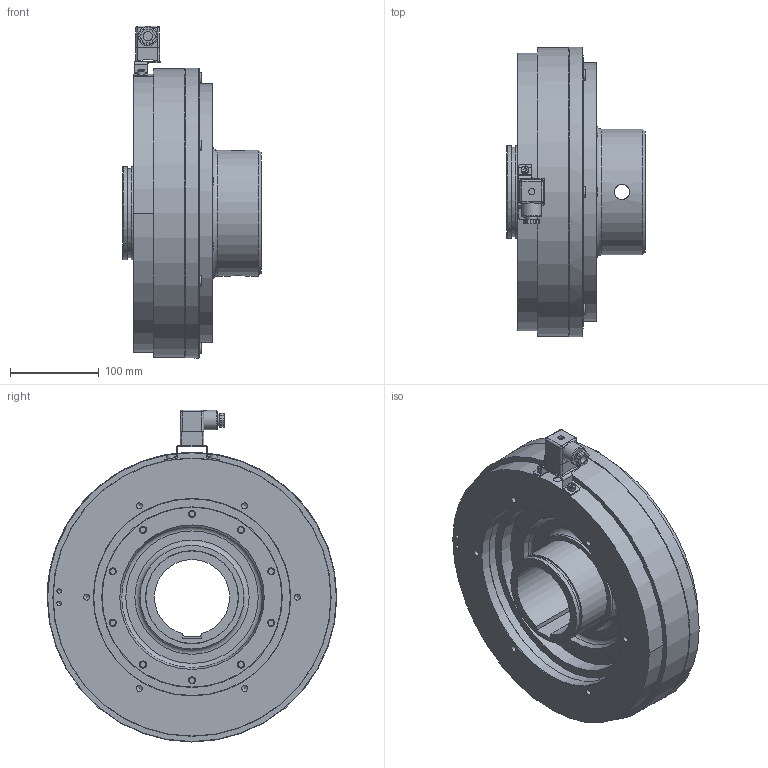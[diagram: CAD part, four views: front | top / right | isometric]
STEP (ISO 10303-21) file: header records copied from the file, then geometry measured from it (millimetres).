
FILE_DESCRIPTION(/* description */ (''),/* implementation_level */ '2;1');
FILE_NAME(/* name */ 'X:\INVENTOR\DISEGNI\08_Freni_Friz_Elettmag_Monodisco\08_26 EMSL_DF\EMSL_DF STEP\08_26_310_22 EMSL310_DF-BM-ME_S@STEP.stp',/* time_stamp */ '2018-04-24T09:07:58+02:00',/* author */ ('stefano'),/* organization */ (''),/* preprocessor_version */ 'ST-DEVELOPER v17',/* originating_system */ 'Autodesk Inventor 2018',/* authorisation */ '');
FILE_SCHEMA (('AUTOMOTIVE_DESIGN { 1 0 10303 214 3 1 1 }'));
Length unit declared in the file: millimetre
Products named in the file (1): 08_26_310_22 EMSL310_DF-BM-ME - Spina_Substitute_1
Bounding box: 156 x 327 x 374.81 mm (x, y, z)
Volume: 4789612.7 mm3; surface area: 785652.7 mm2
Topology: 4 solids, 4 shells, 762 faces, 2213 edges, 1523 vertices
Faces by surface type: cylinder 367, plane 284, cone 83, torus 24, sphere 4
Full cylindrical faces by diameter (mm): 2 x1, 3 x12, 4.917 x2, 5 x2, 5.25 x2, 6.647 x6, 7 x1, 8 x10, 8.1 x12, 8.376 x6, 8.5 x2, 9 x2, 10.5 x1, 12 x12, 13 x11, 15 x12, 16 x6, 17.294 x2, 22 x1, 35 x6, 65 x6, 101 x1, 105 x2, 117 x1, 142 x1, 170 x1, 203 x1, 204 x2, 214 x1, 222 x1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
Entity records: 26725 total; most frequent: CARTESIAN_POINT 5170, DIRECTION 4733, ORIENTED_EDGE 4372, EDGE_CURVE 2186, AXIS2_PLACEMENT_3D 1941, VERTEX_POINT 1527, CIRCLE 1178, EDGE_LOOP 989
